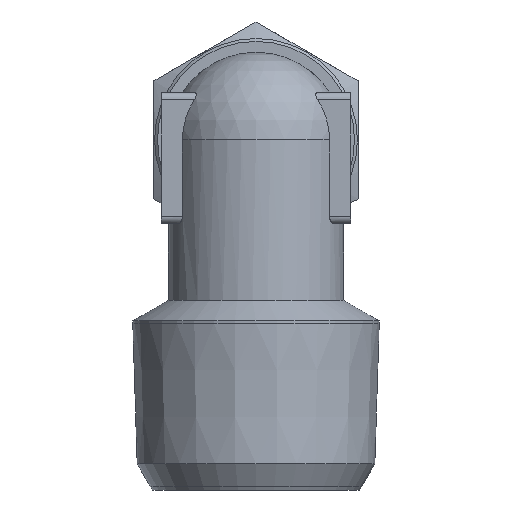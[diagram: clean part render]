
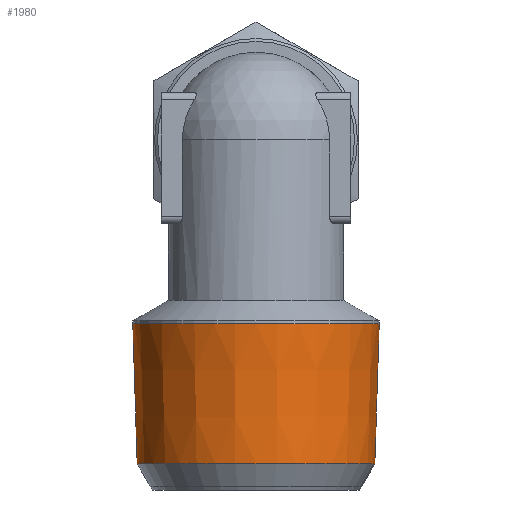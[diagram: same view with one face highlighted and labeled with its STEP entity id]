
A CAD part, left-side view. The second image highlights one B-rep face of the part: STEP entity #1980.
In plain terms, the highlighted conical face has half-angle 1.79 degrees and reference radius 8.447 mm.
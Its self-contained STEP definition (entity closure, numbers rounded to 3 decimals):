
#1980=ADVANCED_FACE('', (#1990,#2000), #2010, .T.);
#7290=AXIS2_PLACEMENT_3D('Ax2Pl3d', #7300, #7310, #7320);
#7370=AXIS2_PLACEMENT_3D('Ax2Pl3d', #7380, #7390, #7400);
#7410=AXIS2_PLACEMENT_3D('Ax2Pl3d', #7420, #7430, #7440);
#7300=CARTESIAN_POINT('HicPkt', (23.448,15.398,
15.383));
#54660=CARTESIAN_POINT('', (23.448,7.251,15.383));
#7380=CARTESIAN_POINT('HicPkt', (23.448,15.398,
24.983));
#7420=CARTESIAN_POINT('HicPkt', (23.448,15.398,
24.983));
#54680=CARTESIAN_POINT('', (23.448,23.845,24.983));
#55540=CIRCLE('Circle', #7290, 8.147);
#55560=CIRCLE('Circle', #7410, 8.447);
#2010=CONICAL_SURFACE('Kegel', #7370, 8.447, 
0.031);
#7310=DIRECTION('Axis', (0.,0.,-1.));
#7320=DIRECTION('RefDirection', (-1.,-0.,0.));
#7390=DIRECTION('Axis', (0.,0.,1.));
#7400=DIRECTION('RefDirection', (1.,0.,-0.));
#7430=DIRECTION('Axis', (0.,0.,1.));
#7440=DIRECTION('RefDirection', (1.,0.,-0.));
#63360=EDGE_CURVE('', #63370, #63370, #55540, .T.);
#63400=EDGE_CURVE('', #63410, #63410, #55560, .T.);
#67270=EDGE_LOOP('Edge_loop', (#67280));
#67290=EDGE_LOOP('Edge_loop', (#67300));
#2000=FACE_BOUND('', #67290, .T.);
#1990=FACE_OUTER_BOUND('Face_outer_bound', #67270, .T.);
#67280=ORIENTED_EDGE('', *, *, #63360, .F.);
#67300=ORIENTED_EDGE('', *, *, #63400, .F.);
#63370=VERTEX_POINT('', #54660);
#63410=VERTEX_POINT('', #54680);
